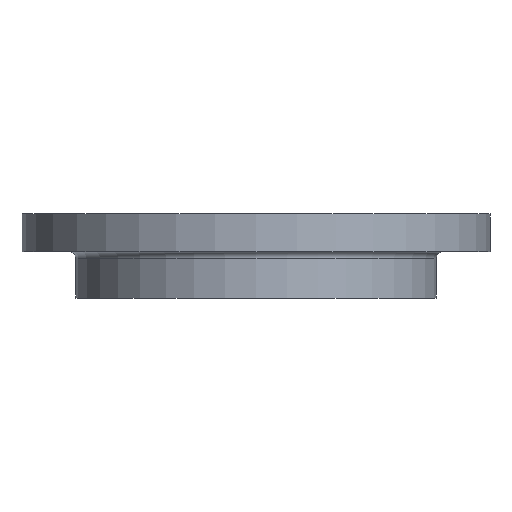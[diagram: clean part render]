
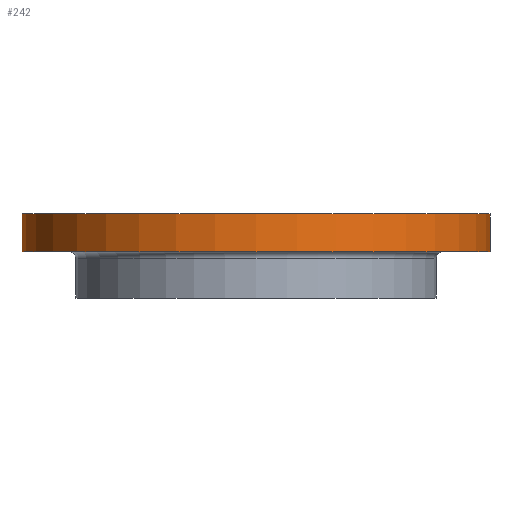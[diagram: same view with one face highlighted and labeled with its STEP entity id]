
A CAD part, front view. The second image highlights one B-rep face of the part: STEP entity #242.
In plain terms, the highlighted cylindrical face has radius 445 mm (diameter 890 mm), a partial arc.
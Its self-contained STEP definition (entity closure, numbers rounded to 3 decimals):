
#46 = CIRCLE ( 'NONE', #1233, 445. ) ;
#242 = ADVANCED_FACE ( 'NONE', ( #993 ), #992, .T. ) ;
#286 = DIRECTION ( 'NONE',  ( 0., 0., 1. ) ) ;
#288 = CARTESIAN_POINT ( 'NONE',  ( 445., 0., -160. ) ) ;
#289 = LINE ( 'NONE', #288, #1403 ) ;
#303 = CARTESIAN_POINT ( 'NONE',  ( -445., 0., 0. ) ) ;
#311 = CARTESIAN_POINT ( 'NONE',  ( 445., 0., 0. ) ) ;
#337 = DIRECTION ( 'NONE',  ( 1., 0., 0. ) ) ;
#338 = DIRECTION ( 'NONE',  ( 0., 0., 1. ) ) ;
#339 = CARTESIAN_POINT ( 'NONE',  ( 0., 0., 0. ) ) ;
#343 = DIRECTION ( 'NONE',  ( 1., 0., 0. ) ) ;
#344 = DIRECTION ( 'NONE',  ( 0., 0., 1. ) ) ;
#346 = CARTESIAN_POINT ( 'NONE',  ( 0., 0., -72. ) ) ;
#353 = DIRECTION ( 'NONE',  ( 0., 0., 1. ) ) ;
#354 = CARTESIAN_POINT ( 'NONE',  ( -445., 0., -160. ) ) ;
#355 = LINE ( 'NONE', #354, #1697 ) ;
#360 = CARTESIAN_POINT ( 'NONE',  ( 445., 0., -72. ) ) ;
#417 = CARTESIAN_POINT ( 'NONE',  ( -445., 0., -72. ) ) ;
#831 = AXIS2_PLACEMENT_3D ( 'NONE', #991, #990, #989 ) ;
#989 = DIRECTION ( 'NONE',  ( 1., 0., 0. ) ) ;
#990 = DIRECTION ( 'NONE',  ( 0., 0., 1. ) ) ;
#991 = CARTESIAN_POINT ( 'NONE',  ( 0., 0., -160. ) ) ;
#992 = CYLINDRICAL_SURFACE ( 'NONE', #831, 445. ) ;
#993 = FACE_OUTER_BOUND ( 'NONE', #1160, .T. ) ;
#1081 = CIRCLE ( 'NONE', #1351, 445. ) ;
#1160 = EDGE_LOOP ( 'NONE', ( #1339, #1338, #1281, #1271 ) ) ;
#1233 = AXIS2_PLACEMENT_3D ( 'NONE', #339, #338, #337 ) ;
#1271 = ORIENTED_EDGE ( 'NONE', *, *, #1496, .F. ) ;
#1281 = ORIENTED_EDGE ( 'NONE', *, *, #1541, .T. ) ;
#1338 = ORIENTED_EDGE ( 'NONE', *, *, #1493, .T. ) ;
#1339 = ORIENTED_EDGE ( 'NONE', *, *, #1488, .F. ) ;
#1351 = AXIS2_PLACEMENT_3D ( 'NONE', #346, #344, #343 ) ;
#1403 = VECTOR ( 'NONE', #286, 1000. ) ;
#1421 = VERTEX_POINT ( 'NONE', #417 ) ;
#1485 = VERTEX_POINT ( 'NONE', #360 ) ;
#1488 = EDGE_CURVE ( 'NONE', #1421, #1529, #355, .T. ) ;
#1493 = EDGE_CURVE ( 'NONE', #1421, #1485, #1081, .T. ) ;
#1496 = EDGE_CURVE ( 'NONE', #1529, #1519, #46, .T. ) ;
#1519 = VERTEX_POINT ( 'NONE', #311 ) ;
#1529 = VERTEX_POINT ( 'NONE', #303 ) ;
#1541 = EDGE_CURVE ( 'NONE', #1485, #1519, #289, .T. ) ;
#1697 = VECTOR ( 'NONE', #353, 1000. ) ;
